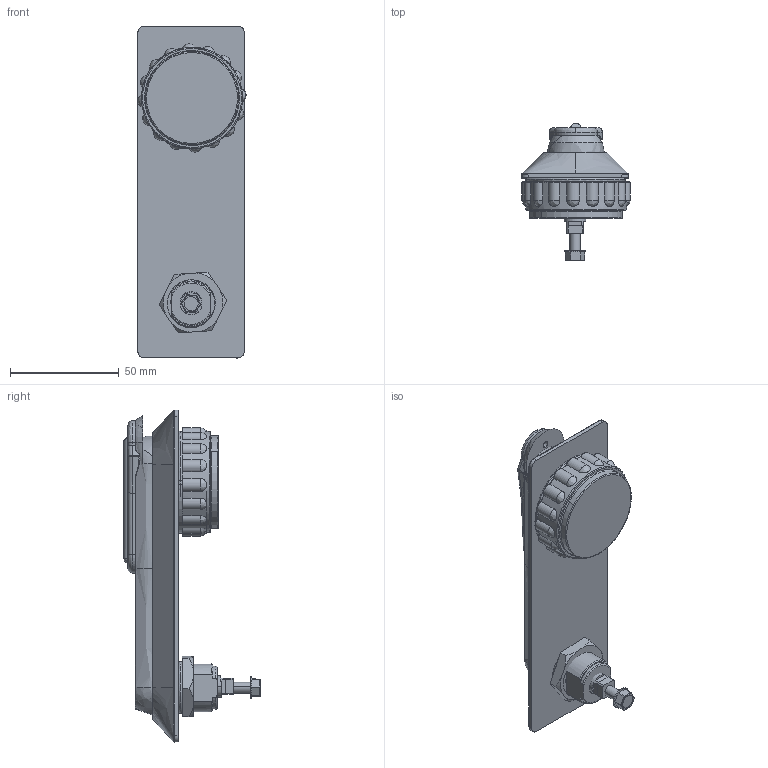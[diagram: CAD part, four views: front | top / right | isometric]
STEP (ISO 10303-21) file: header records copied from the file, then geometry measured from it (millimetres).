
FILE_DESCRIPTION (( 'STEP AP214' ), '1' );
FILE_NAME ('RS500.STEP', '2010-02-25T11:46:35', ( 'Techniczny' ), ( 'RST Roztocze' ), 'SwSTEP 2.0', 'SolidWorks 2010', '' );
FILE_SCHEMA (( 'AUTOMOTIVE_DESIGN' ));
Length unit declared in the file: millimetre
Products named in the file (14): 1B.RS 100.01.06.00_Domyœlna; M5 x 16_Domyœlna; 1B.RS400-U.01.01.00_Ucho; RS500; RS200-nakrêtka-ma³a_Domyœlna; 1B.RS100.01.04.00_Domyœlna; 1B.RS100.01.03.00_Domyœlna; 1B.RS300.01.05.00_Domyœlna; O-RING 45 x 2_Domyœlna; 1B.RS500-U.02.01.00; O-RING 12x2_Domyœlna; 1B RS 400.01.02.00_Domyœlna; Zapinka RESS_Domyœlna; 1B. RS100.02.02.00_Domyœlna
Assembly tree (13 placements, depth 2):
  RS500
    1B.RS100.01.04.00_Domyœlna
    1B.RS400-U.01.01.00_Ucho
    1B.RS500-U.02.01.00
    1B. RS100.02.02.00_Domyœlna
    1B RS 400.01.02.00_Domyœlna
    1B.RS300.01.05.00_Domyœlna
    O-RING 12x2_Domyœlna
    M5 x 16_Domyœlna
    RS200-nakrêtka-ma³a_Domyœlna
    1B.RS100.01.03.00_Domyœlna
    1B.RS 100.01.06.00_Domyœlna
    O-RING 45 x 2_Domyœlna
    Zapinka RESS_Domyœlna
Bounding box: 49.86 x 63.03 x 153 mm (x, y, z)
Volume: 100394.7 mm3; surface area: 57739.6 mm2
Topology: 13 solids, 13 shells, 525 faces, 1335 edges, 833 vertices
Faces by surface type: cylinder 171, bspline 164, plane 157, cone 33
Entity records: 24121 total; most frequent: CARTESIAN_POINT 11860, ORIENTED_EDGE 2644, DIRECTION 2232, EDGE_CURVE 1322, AXIS2_PLACEMENT_3D 851, VERTEX_POINT 833, EDGE_LOOP 563, VECTOR 530
